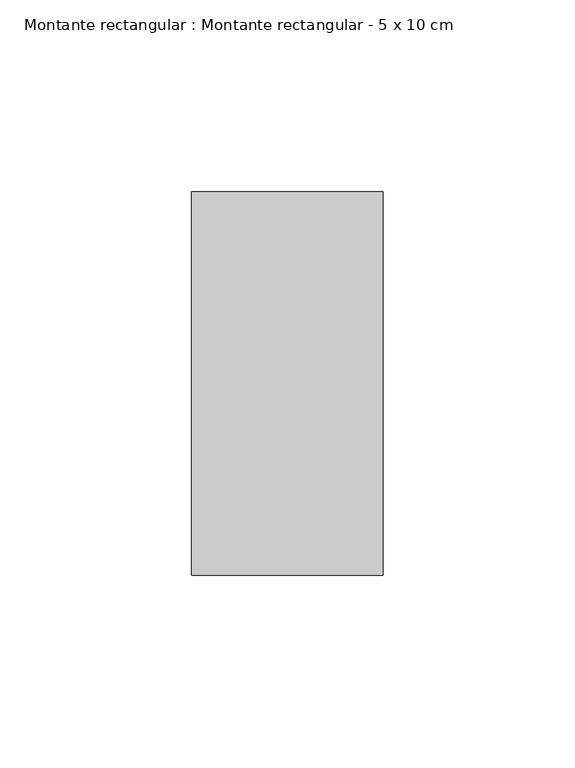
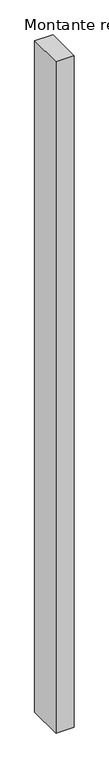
"""IFC4 building model written with IfcOpenShell, lengths in millimetres: member geometry, Montante rectangular : Montante rectangular - 5 x 10 cm."""

from ifc_helpers import new_model, si_unit, frame, origin, place, context, project, spatial, polyline, outline, extrude, source, transform, mapped, element, save


def montante_rectangular_montante_rectangular_5_x_10_cm_4a8612d4(model_context):
    return source(origin(), model_context, "Body", "SweptSolid", [
        extrude(outline(polyline([(0.0, 50.0), (0.0, -50.0), (-50.0, -50.0), (-50.0, 50.0), (0.0, 50.0)])), frame((0.0, 0.0, -1938.5295387), z_axis=(0.0, 0.0, 1.0), x_axis=(1.0, 0.0, 0.0)), (0.0, 0.0, 1.0), 1938.5295387),
    ])


if __name__ == "__main__":
    model = new_model("IFC4")
    model_context = context("Model", 3, world=origin())
    ifc_project = project(units=[si_unit("LENGTHUNIT", "METRE", prefix="MILLI")], contexts=[model_context])
    site = spatial("IfcSite", under=ifc_project)
    building = spatial("IfcBuilding", under=site)
    placement = place(None, origin())
    montante_rectangular_montante_rectangular_5_x_10_cm_shape = montante_rectangular_montante_rectangular_5_x_10_cm_4a8612d4(model_context)
    element("IfcMember", 1, ObjectType="Montante rectangular : Montante rectangular - 5 x 10 cm", at=placement, inside=building, context=model_context, shape_type="MappedRepresentation", body=[
        mapped(montante_rectangular_montante_rectangular_5_x_10_cm_shape, transform((0.0, 0.0, 0.0), x_axis=(1.0, 0.0, 0.0), y_axis=(0.0, 1.0, 0.0), z_axis=(0.0, 0.0, 1.0))),
    ])
    save(model, "model.ifc")
